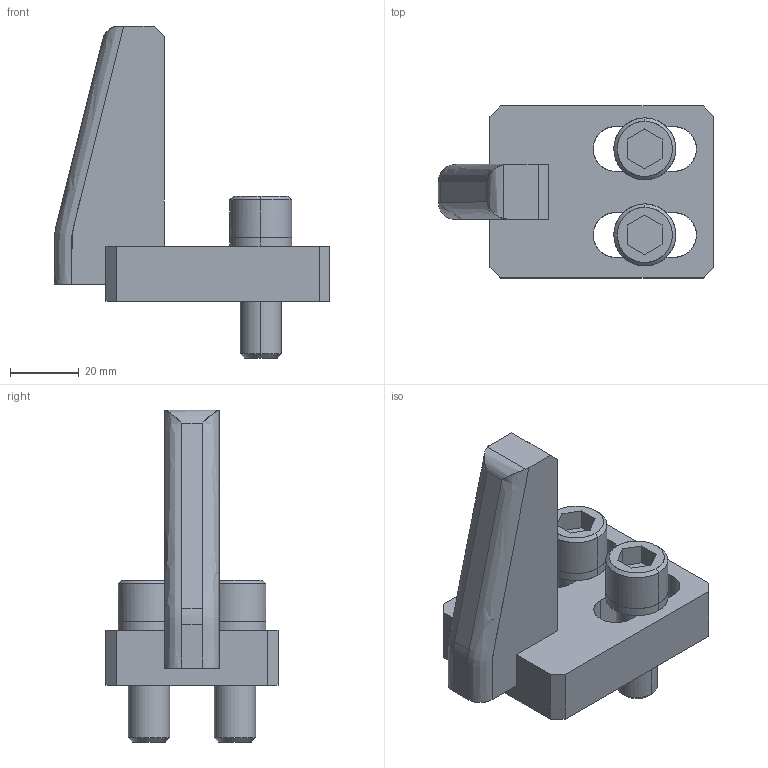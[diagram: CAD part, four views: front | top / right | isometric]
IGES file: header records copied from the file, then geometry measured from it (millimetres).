
Global section: file name: E:\UnigraphicsGraphicData\MISUMI_PRESS-PARTS\IGES\3d_ngga-80-20-15_01473_r00.igs; native system: NX V5.0; preprocessor: UGS NX IGES V5.0; author: MISUMI; date: 20110105.162030; units: millimetre
Bounding box: 80 x 50 x 96.5 mm (x, y, z)
Surface area: 24825.9 mm2 (no closed solid volume)
Topology: 0 solids, 0 shells, 103 faces, 658 edges, 658 vertices
Faces by surface type: bspline 103
